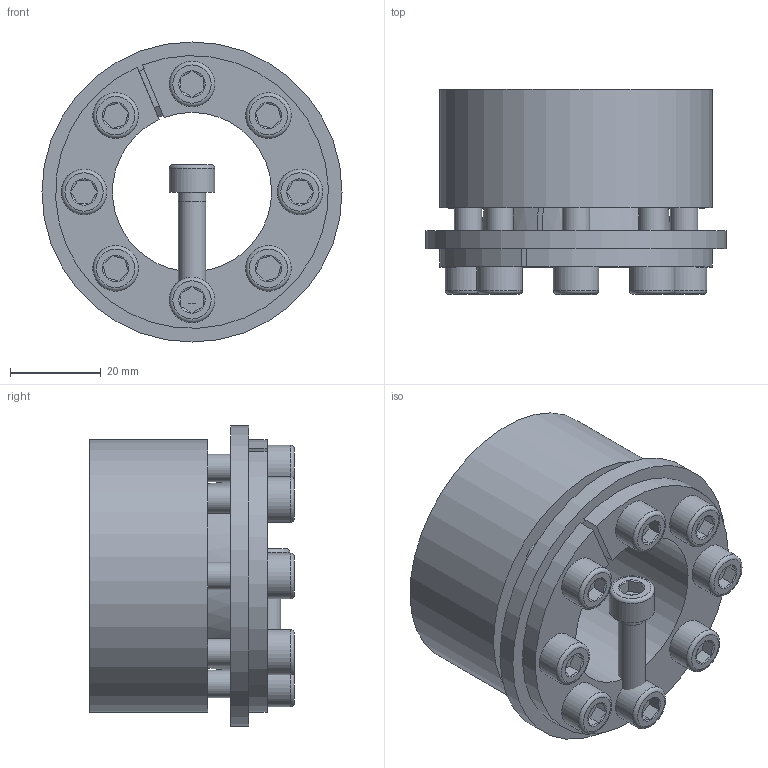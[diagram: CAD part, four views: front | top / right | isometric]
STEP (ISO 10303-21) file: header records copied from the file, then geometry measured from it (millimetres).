
FILE_DESCRIPTION( ( 'Unknown' ), '1' );
FILE_NAME( 'C:/Dokumente und Einstellungen/Sven/Desktop/homepage/cad - homepage/KBS71/KBS 71 - 35 x 60.stp', 'Unknown', ( 'Unknown' ), ( 'Unknown' ), 'XStep 1.0', 'Unknown', ' ' );
FILE_SCHEMA( ( 'automotive_design' ) );
Length unit declared in the file: millimetre
Products named in the file (3): Assem1; KBS 71 - 35 x 60; ISO EN DIN 4762 M6x25
Bounding box: 66 x 45 x 66 mm (x, y, z)
Volume: 127932.5 mm3; surface area: 56676.3 mm2
Topology: 11 solids, 11 shells, 305 faces, 667 edges, 400 vertices
Faces by surface type: plane 140, cylinder 76, cone 71, torus 18
Full cylindrical faces by diameter (mm): 5 x9, 6 x50, 10 x9, 66 x2
Entity records: 2351 total; most frequent: CARTESIAN_POINT 386, DIRECTION 351, ORIENTED_EDGE 280, AXIS2_PLACEMENT_3D 151, EDGE_CURVE 140, EDGE_LOOP 120, VERTEX_POINT 98, FACE_OUTER_BOUND 88
